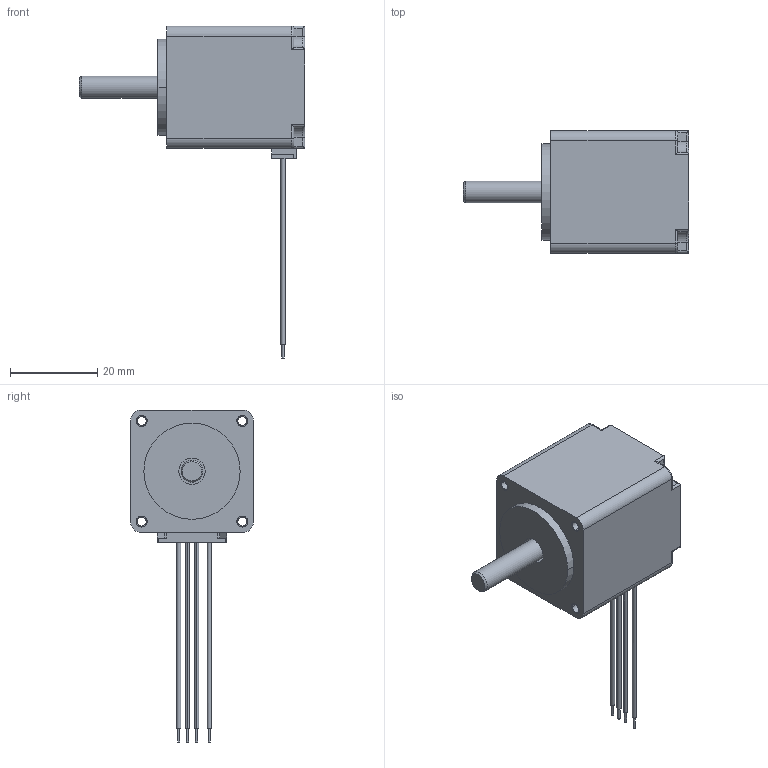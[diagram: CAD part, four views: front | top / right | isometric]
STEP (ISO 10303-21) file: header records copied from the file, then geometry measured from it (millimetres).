
FILE_DESCRIPTION( ('This file contains a STEP AP42 implementation' ,'as created by ZW3D STEP Interface translator.' ,'') ,'2;1' );
FILE_NAME( '28H32H-0XXXA-XXX.stp' ,'26 114.151334', (''), ('ZWCAD Software Co.'), 'Version 1.0', 'ZW3D to STEP translator', '' );
FILE_SCHEMA(('AUTOMOTIVE_DESIGN { 1 0 10303 214 1 1 1 1 }'));
Length unit declared in the file: millimetre
Products named in the file (1): 0
Bounding box: 51.55 x 28 x 75.9 mm (x, y, z)
Volume: 15528.3 mm3; surface area: 17504.5 mm2
Topology: 1 solids, 5 shells, 1239 faces, 3977 edges, 2522 vertices
Faces by surface type: plane 706, cylinder 496, torus 27, cone 10
Full cylindrical faces by diameter (mm): 0.5 x7, 1 x2, 1.4 x8, 2.8 x4, 3 x4, 4.2 x1, 5 x1, 6 x2, 7 x1, 8 x2, 8.5 x1, 10 x1, 10.5 x1, 14 x1, 16.9 x1
Entity records: 45713 total; most frequent: CARTESIAN_POINT 8105, ORIENTED_EDGE 7938, DIRECTION 7670, EDGE_CURVE 3977, VECTOR 2664, LINE 2664, VERTEX_POINT 2522, AXIS2_PLACEMENT_3D 2503
